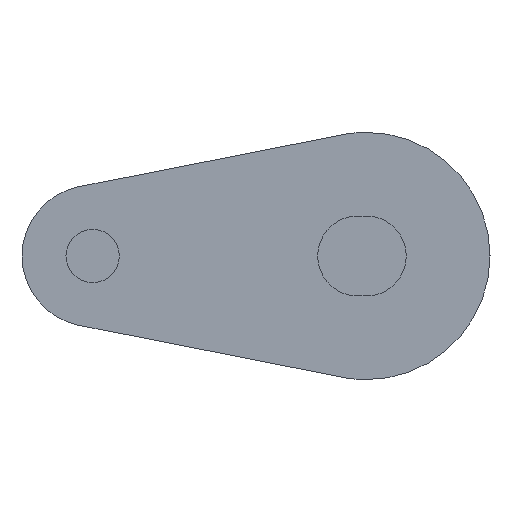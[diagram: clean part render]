
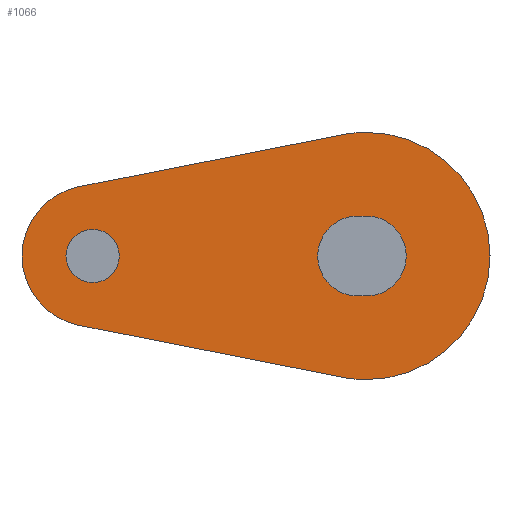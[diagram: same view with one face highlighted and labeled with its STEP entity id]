
A CAD part, left-side view. The second image highlights one B-rep face of the part: STEP entity #1066.
In plain terms, the highlighted planar face has unit normal (-1, 0, 0).
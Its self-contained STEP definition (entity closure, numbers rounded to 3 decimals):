
#20 = FACE_BOUND ( 'NONE', #807, .T. ) ;
#25 = FACE_BOUND ( 'NONE', #804, .T. ) ;
#42 = FACE_OUTER_BOUND ( 'NONE', #697, .T. ) ;
#63 = PLANE ( 'NONE',  #668 ) ;
#71 = CARTESIAN_POINT ( 'NONE',  ( -453.5, 0.5, 2.26 ) ) ;
#73 = CARTESIAN_POINT ( 'NONE',  ( -453.5, 16.274, 3.924 ) ) ;
#79 = DIRECTION ( 'NONE',  ( 0., 0., -1. ) ) ;
#83 = VERTEX_POINT ( 'NONE', #188 ) ;
#102 = CARTESIAN_POINT ( 'NONE',  ( -453.5, 0.5, -2.26 ) ) ;
#131 = CARTESIAN_POINT ( 'NONE',  ( -453.5, 1.355, 6.868 ) ) ;
#136 = CARTESIAN_POINT ( 'NONE',  ( -453.5, 15.5, 0. ) ) ;
#153 = DIRECTION ( 'NONE',  ( 0., 0., -1. ) ) ;
#154 = CARTESIAN_POINT ( 'NONE',  ( -453.5, 0., 7. ) ) ;
#159 = DIRECTION ( 'NONE',  ( -1., 0., 0. ) ) ;
#163 = CARTESIAN_POINT ( 'NONE',  ( -453.5, 1.355, -6.868 ) ) ;
#164 = CARTESIAN_POINT ( 'NONE',  ( -453.5, 15.5, -1.51 ) ) ;
#165 = CARTESIAN_POINT ( 'NONE',  ( -453.5, 15.5, 0. ) ) ;
#188 = CARTESIAN_POINT ( 'NONE',  ( -453.5, 16.274, -3.924 ) ) ;
#221 = CARTESIAN_POINT ( 'NONE',  ( -453.5, 0., 0. ) ) ;
#228 = CARTESIAN_POINT ( 'NONE',  ( -453.5, 0., -2.26 ) ) ;
#238 = CARTESIAN_POINT ( 'NONE',  ( -453.5, 0., 0. ) ) ;
#242 = DIRECTION ( 'NONE',  ( 1., 0., 0. ) ) ;
#247 = DIRECTION ( 'NONE',  ( 0., 0., -1. ) ) ;
#256 = DIRECTION ( 'NONE',  ( 1., 0., 0. ) ) ;
#257 = DIRECTION ( 'NONE',  ( 0., 0., -1. ) ) ;
#273 = DIRECTION ( 'NONE',  ( 1., 0., 0. ) ) ;
#289 = DIRECTION ( 'NONE',  ( 1., 0., 0. ) ) ;
#319 = DIRECTION ( 'NONE',  ( 0., -0.981, 0.194 ) ) ;
#320 = CARTESIAN_POINT ( 'NONE',  ( -453.5, 16.274, 3.924 ) ) ;
#333 = CARTESIAN_POINT ( 'NONE',  ( -453.5, 15.5, 0. ) ) ;
#338 = CARTESIAN_POINT ( 'NONE',  ( -453.5, 15.5, 0. ) ) ;
#343 = CARTESIAN_POINT ( 'NONE',  ( -453.5, 0., -7. ) ) ;
#352 = DIRECTION ( 'NONE',  ( 0., -1., 0. ) ) ;
#353 = CARTESIAN_POINT ( 'NONE',  ( -453.5, 0.5, 2.26 ) ) ;
#364 = VERTEX_POINT ( 'NONE', #154 ) ;
#365 = VERTEX_POINT ( 'NONE', #131 ) ;
#376 = VERTEX_POINT ( 'NONE', #424 ) ;
#383 = VERTEX_POINT ( 'NONE', #228 ) ;
#385 = VERTEX_POINT ( 'NONE', #435 ) ;
#394 = DIRECTION ( 'NONE',  ( 0., 0.981, 0.194 ) ) ;
#395 = CARTESIAN_POINT ( 'NONE',  ( -453.5, 1.355, -6.868 ) ) ;
#396 = DIRECTION ( 'NONE',  ( 0., 0., -1. ) ) ;
#402 = VERTEX_POINT ( 'NONE', #163 ) ;
#403 = VERTEX_POINT ( 'NONE', #164 ) ;
#408 = VERTEX_POINT ( 'NONE', #71 ) ;
#416 = DIRECTION ( 'NONE',  ( 1., 0., 0. ) ) ;
#419 = CARTESIAN_POINT ( 'NONE',  ( -453.5, 0., 0. ) ) ;
#424 = CARTESIAN_POINT ( 'NONE',  ( -453.5, 15.5, 1.51 ) ) ;
#435 = CARTESIAN_POINT ( 'NONE',  ( -453.5, 0., 2.26 ) ) ;
#440 = DIRECTION ( 'NONE',  ( 0., 0., -1. ) ) ;
#443 = VERTEX_POINT ( 'NONE', #73 ) ;
#451 = DIRECTION ( 'NONE',  ( 1., 0., 0. ) ) ;
#453 = CARTESIAN_POINT ( 'NONE',  ( -453.5, 0., 0. ) ) ;
#454 = CARTESIAN_POINT ( 'NONE',  ( -453.5, 0.5, -2.26 ) ) ;
#470 = DIRECTION ( 'NONE',  ( 0., 0., -1. ) ) ;
#472 = DIRECTION ( 'NONE',  ( 1., 0., 0. ) ) ;
#491 = VERTEX_POINT ( 'NONE', #343 ) ;
#493 = DIRECTION ( 'NONE',  ( 1., 0., 0. ) ) ;
#495 = DIRECTION ( 'NONE',  ( 0., 0., -1. ) ) ;
#498 = DIRECTION ( 'NONE',  ( 0., 0., -1. ) ) ;
#500 = VERTEX_POINT ( 'NONE', #454 ) ;
#504 = DIRECTION ( 'NONE',  ( 0., 1., 0. ) ) ;
#508 = CARTESIAN_POINT ( 'NONE',  ( -453.5, 0.5, 0. ) ) ;
#516 = EDGE_CURVE ( 'NONE', #491, #402, #852, .T. ) ;
#521 = EDGE_CURVE ( 'NONE', #383, #500, #851, .T. ) ;
#525 = AXIS2_PLACEMENT_3D ( 'NONE', #453, #451, #495 ) ;
#529 = EDGE_CURVE ( 'NONE', #500, #408, #845, .T. ) ;
#542 = AXIS2_PLACEMENT_3D ( 'NONE', #333, #256, #257 ) ;
#544 = EDGE_CURVE ( 'NONE', #403, #376, #833, .T. ) ;
#545 = EDGE_CURVE ( 'NONE', #365, #364, #831, .T. ) ;
#567 = EDGE_CURVE ( 'NONE', #385, #383, #817, .T. ) ;
#572 = EDGE_CURVE ( 'NONE', #364, #491, #812, .T. ) ;
#584 = EDGE_CURVE ( 'NONE', #376, #403, #801, .T. ) ;
#613 = EDGE_CURVE ( 'NONE', #83, #443, #759, .T. ) ;
#620 = EDGE_CURVE ( 'NONE', #402, #83, #758, .T. ) ;
#633 = AXIS2_PLACEMENT_3D ( 'NONE', #136, #273, #440 ) ;
#634 = AXIS2_PLACEMENT_3D ( 'NONE', #419, #416, #396 ) ;
#635 = AXIS2_PLACEMENT_3D ( 'NONE', #221, #289, #470 ) ;
#641 = EDGE_CURVE ( 'NONE', #408, #385, #734, .T. ) ;
#643 = AXIS2_PLACEMENT_3D ( 'NONE', #508, #493, #498 ) ;
#650 = AXIS2_PLACEMENT_3D ( 'NONE', #338, #472, #79 ) ;
#658 = EDGE_CURVE ( 'NONE', #443, #365, #720, .T. ) ;
#663 = AXIS2_PLACEMENT_3D ( 'NONE', #238, #242, #247 ) ;
#668 = AXIS2_PLACEMENT_3D ( 'NONE', #165, #159, #153 ) ;
#697 = EDGE_LOOP ( 'NONE', ( #903, #902, #904, #863, #891, #894 ) ) ;
#718 = VECTOR ( 'NONE', #319, 1000. ) ;
#720 = LINE ( 'NONE', #320, #718 ) ;
#733 = VECTOR ( 'NONE', #352, 1000. ) ;
#734 = LINE ( 'NONE', #353, #733 ) ;
#757 = VECTOR ( 'NONE', #394, 1000. ) ;
#758 = LINE ( 'NONE', #395, #757 ) ;
#759 = CIRCLE ( 'NONE', #633, 4. ) ;
#801 = CIRCLE ( 'NONE', #542, 1.51 ) ;
#804 = EDGE_LOOP ( 'NONE', ( #1023, #1025, #857, #858 ) ) ;
#807 = EDGE_LOOP ( 'NONE', ( #856, #855 ) ) ;
#812 = CIRCLE ( 'NONE', #663, 7. ) ;
#817 = CIRCLE ( 'NONE', #634, 2.26 ) ;
#831 = CIRCLE ( 'NONE', #635, 7. ) ;
#833 = CIRCLE ( 'NONE', #650, 1.51 ) ;
#845 = CIRCLE ( 'NONE', #643, 2.26 ) ;
#851 = LINE ( 'NONE', #102, #854 ) ;
#852 = CIRCLE ( 'NONE', #525, 7. ) ;
#854 = VECTOR ( 'NONE', #504, 1000. ) ;
#855 = ORIENTED_EDGE ( 'NONE', *, *, #584, .T. ) ;
#856 = ORIENTED_EDGE ( 'NONE', *, *, #544, .T. ) ;
#857 = ORIENTED_EDGE ( 'NONE', *, *, #567, .T. ) ;
#858 = ORIENTED_EDGE ( 'NONE', *, *, #521, .T. ) ;
#863 = ORIENTED_EDGE ( 'NONE', *, *, #572, .F. ) ;
#891 = ORIENTED_EDGE ( 'NONE', *, *, #545, .F. ) ;
#894 = ORIENTED_EDGE ( 'NONE', *, *, #658, .F. ) ;
#902 = ORIENTED_EDGE ( 'NONE', *, *, #620, .F. ) ;
#903 = ORIENTED_EDGE ( 'NONE', *, *, #613, .F. ) ;
#904 = ORIENTED_EDGE ( 'NONE', *, *, #516, .F. ) ;
#1023 = ORIENTED_EDGE ( 'NONE', *, *, #529, .T. ) ;
#1025 = ORIENTED_EDGE ( 'NONE', *, *, #641, .T. ) ;
#1066 = ADVANCED_FACE ( 'NONE', ( #25, #20, #42 ), #63, .T. ) ;
